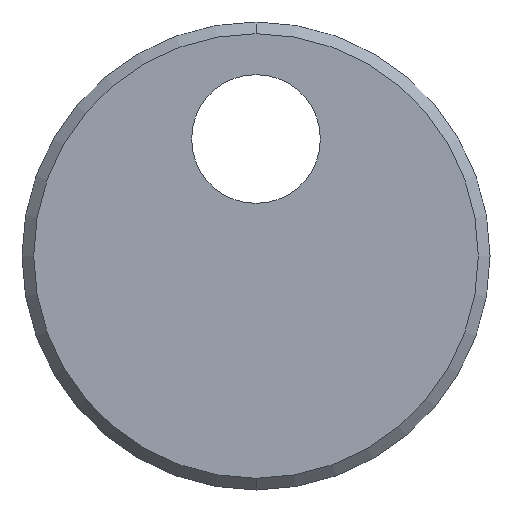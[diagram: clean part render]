
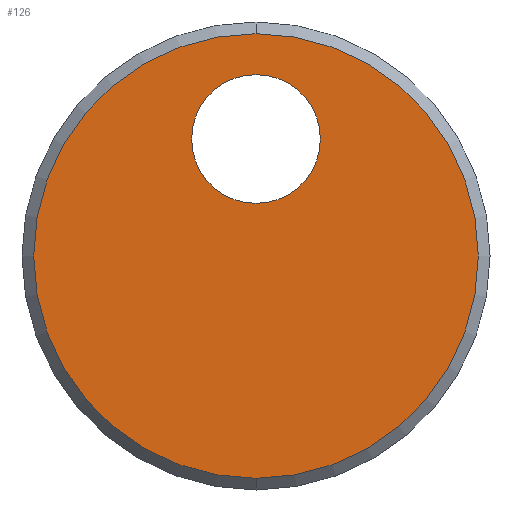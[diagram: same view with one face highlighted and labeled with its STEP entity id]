
A CAD part, front view. The second image highlights one B-rep face of the part: STEP entity #126.
In plain terms, the highlighted planar face has unit normal (0, -1, 0).
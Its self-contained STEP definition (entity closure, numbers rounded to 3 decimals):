
#2 = CARTESIAN_POINT ( 'NONE',  ( 0., 0., 0. ) ) ;
#17 = AXIS2_PLACEMENT_3D ( 'NONE', #282, #298, #95 ) ;
#47 = DIRECTION ( 'NONE',  ( 0., 0., 1. ) ) ;
#49 = EDGE_LOOP ( 'NONE', ( #57, #190 ) ) ;
#57 = ORIENTED_EDGE ( 'NONE', *, *, #317, .T. ) ;
#65 = CIRCLE ( 'NONE', #17, 2.75 ) ;
#71 = VERTEX_POINT ( 'NONE', #157 ) ;
#76 = DIRECTION ( 'NONE',  ( 0., -1., 0. ) ) ;
#78 = CARTESIAN_POINT ( 'NONE',  ( 0., 0., 5. ) ) ;
#86 = DIRECTION ( 'NONE',  ( 0., 1., 0. ) ) ;
#95 = DIRECTION ( 'NONE',  ( 0., 0., 1. ) ) ;
#115 = AXIS2_PLACEMENT_3D ( 'NONE', #130, #306, #185 ) ;
#126 = ADVANCED_FACE ( 'NONE', ( #206, #310 ), #232, .F. ) ;
#130 = CARTESIAN_POINT ( 'NONE',  ( 0., 0., 0. ) ) ;
#138 = DIRECTION ( 'NONE',  ( 0., 0., 1. ) ) ;
#139 = DIRECTION ( 'NONE',  ( 0., 0., 1. ) ) ;
#140 = EDGE_LOOP ( 'NONE', ( #203, #239 ) ) ;
#157 = CARTESIAN_POINT ( 'NONE',  ( 0., 0., 2.25 ) ) ;
#165 = VERTEX_POINT ( 'NONE', #201 ) ;
#167 = VERTEX_POINT ( 'NONE', #263 ) ;
#185 = DIRECTION ( 'NONE',  ( 0., 0., 1. ) ) ;
#190 = ORIENTED_EDGE ( 'NONE', *, *, #340, .T. ) ;
#192 = EDGE_CURVE ( 'NONE', #165, #167, #322, .T. ) ;
#201 = CARTESIAN_POINT ( 'NONE',  ( 0., 0., 9.5 ) ) ;
#203 = ORIENTED_EDGE ( 'NONE', *, *, #192, .T. ) ;
#206 = FACE_OUTER_BOUND ( 'NONE', #140, .T. ) ;
#212 = CARTESIAN_POINT ( 'NONE',  ( 0., 0., 0. ) ) ;
#218 = AXIS2_PLACEMENT_3D ( 'NONE', #78, #86, #139 ) ;
#232 = PLANE ( 'NONE',  #115 ) ;
#239 = ORIENTED_EDGE ( 'NONE', *, *, #266, .T. ) ;
#240 = AXIS2_PLACEMENT_3D ( 'NONE', #2, #251, #47 ) ;
#251 = DIRECTION ( 'NONE',  ( 0., -1., 0. ) ) ;
#263 = CARTESIAN_POINT ( 'NONE',  ( 0., 0., -9.5 ) ) ;
#266 = EDGE_CURVE ( 'NONE', #167, #165, #345, .T. ) ;
#276 = CARTESIAN_POINT ( 'NONE',  ( 0., 0., 7.75 ) ) ;
#279 = VERTEX_POINT ( 'NONE', #276 ) ;
#282 = CARTESIAN_POINT ( 'NONE',  ( 0., 0., 5. ) ) ;
#293 = AXIS2_PLACEMENT_3D ( 'NONE', #212, #76, #138 ) ;
#298 = DIRECTION ( 'NONE',  ( 0., 1., 0. ) ) ;
#306 = DIRECTION ( 'NONE',  ( 0., 1., 0. ) ) ;
#310 = FACE_BOUND ( 'NONE', #49, .T. ) ;
#317 = EDGE_CURVE ( 'NONE', #279, #71, #346, .T. ) ;
#322 = CIRCLE ( 'NONE', #293, 9.5 ) ;
#340 = EDGE_CURVE ( 'NONE', #71, #279, #65, .T. ) ;
#345 = CIRCLE ( 'NONE', #240, 9.5 ) ;
#346 = CIRCLE ( 'NONE', #218, 2.75 ) ;
